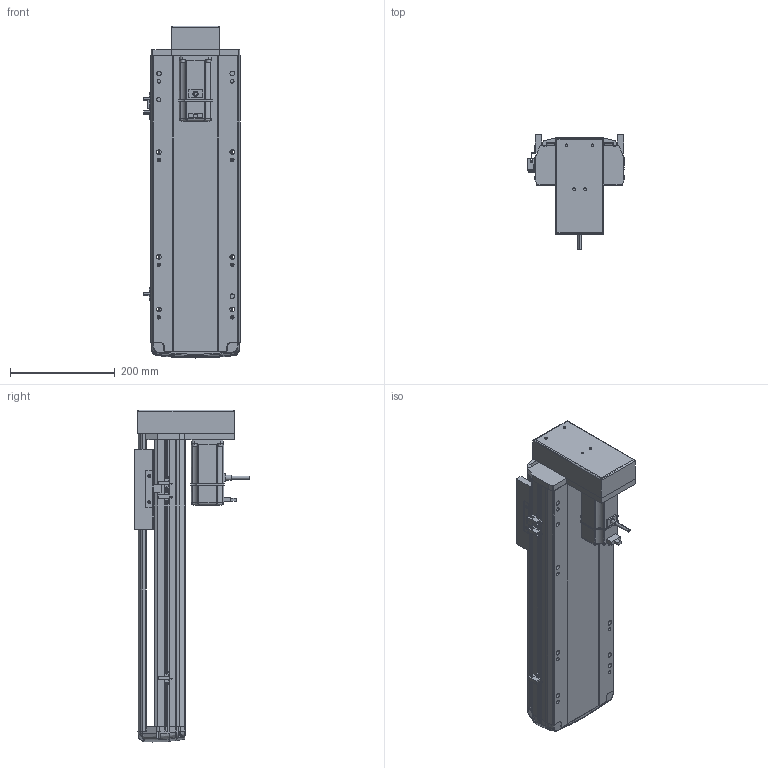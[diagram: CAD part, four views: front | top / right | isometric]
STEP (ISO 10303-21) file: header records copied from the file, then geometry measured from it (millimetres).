
FILE_DESCRIPTION (( 'STEP AP214' ), '1' );
FILE_NAME ('RTH17-XX-350-M-M40-C4.STEP', '2025-10-24T09:03:40', ( '' ), ( '' ), 'SwSTEP 2.0', 'SolidWorks 2018', '' );
FILE_SCHEMA (( 'AUTOMOTIVE_DESIGN' ));
Length unit declared in the file: millimetre
Products named in the file (10): N_RTH-BL-012 感应片(外置)^RTH17-XX-XX-M-M40-C4（方程式）; N_RTH17-M-011底座^RTH17-XX-XX-M-M40-C4（方程式）; RTH17-XX-350-M-M40-C4; N_RTH17-M-008-P40电机安装板下折^RTH17-XX-XX-M-M40-C4（方程式）; N_RTH17-E-004丝杆螺母连接座^RTH17-XX-XX-M-M40-C4（方程式）; N_RTH17-M-018盖子^RTH17-XX-XX-M-M40-C4（方程式）; N_OMRON EE-SX672 換覜ん^RTH17-XX-XX-M-M40-C4ㄗ源最宒ㄘ; N_RTH17-GY-001P^RTH17-XX-XX-M-M40-C4（方程式）; N_M40^RTH17-XX-XX-M-M40-C4（方程式）; N_RTH17-M-007上盖^RTH17-XX-XX-M-M40-C4（方程式）
Assembly tree (11 placements, depth 2):
  RTH17-XX-350-M-M40-C4
    N_RTH17-M-011底座^RTH17-XX-XX-M-M40-C4（方程式）
    N_RTH17-M-007上盖^RTH17-XX-XX-M-M40-C4（方程式）
    N_M40^RTH17-XX-XX-M-M40-C4（方程式）
    N_OMRON EE-SX672 換覜ん^RTH17-XX-XX-M-M40-C4ㄗ源最宒ㄘ  x3
    N_RTH-BL-012 感应片(外置)^RTH17-XX-XX-M-M40-C4（方程式）
    N_RTH17-M-008-P40电机安装板下折^RTH17-XX-XX-M-M40-C4（方程式）
    N_RTH17-M-018盖子^RTH17-XX-XX-M-M40-C4（方程式）
    N_RTH17-E-004丝杆螺母连接座^RTH17-XX-XX-M-M40-C4（方程式）
    N_RTH17-GY-001P^RTH17-XX-XX-M-M40-C4（方程式）
Bounding box: 183.5 x 219 x 633.27 mm (x, y, z)
Volume: 5373267.4 mm3; surface area: 829952.5 mm2
Topology: 10 solids, 12 shells, 1631 faces, 4536 edges, 2956 vertices
Faces by surface type: plane 828, cylinder 436, bspline 330, cone 28, torus 9
Entity records: 47224 total; most frequent: CARTESIAN_POINT 19152, ORIENTED_EDGE 6096, DIRECTION 5020, EDGE_CURVE 3052, VERTEX_POINT 1992, LINE 1738, VECTOR 1738, AXIS2_PLACEMENT_3D 1641
